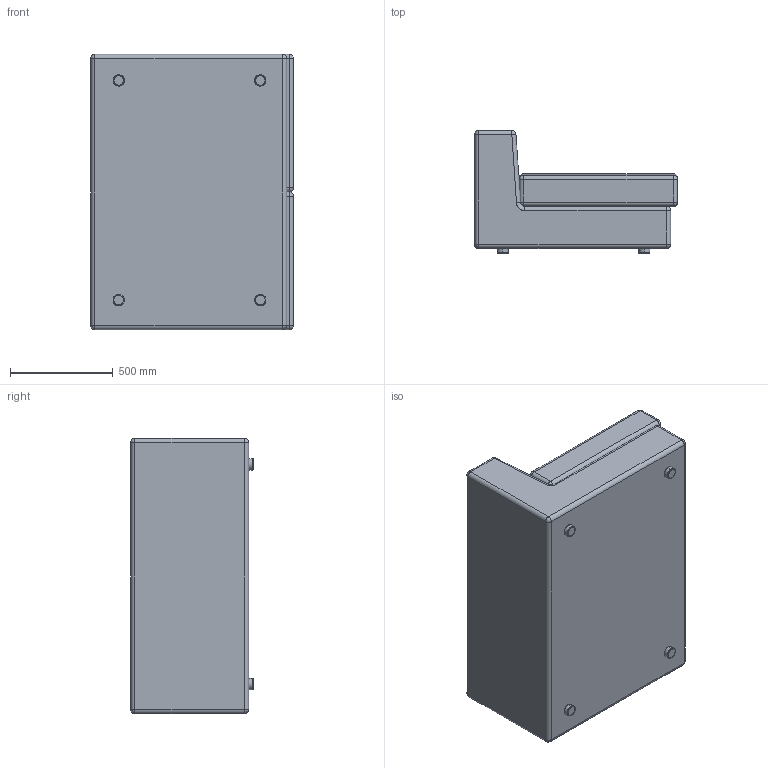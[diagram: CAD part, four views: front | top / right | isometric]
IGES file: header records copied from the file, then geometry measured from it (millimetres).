
Start section: SolidWorks IGES file using NURBS representation for surfaces
Global section: file name: G:\VICCARBE\PRODUCTOS\18-BERRY\04-MODELADOS (PLANOS)\SOLIDWORKS\ELEMENTOS\VICCARBE_Berry_B2.IGS; native system: SolidWorks 2009; preprocessor: SolidWorks 2009; author: RUBEN; date: 110902.094522; units: millimetre
Bounding box: 987.55 x 598 x 1340 mm (x, y, z)
Surface area: 7374679.3 mm2 (no closed solid volume)
Topology: 0 solids, 0 shells, 114 faces, 968 edges, 942 vertices
Faces by surface type: bspline 114
